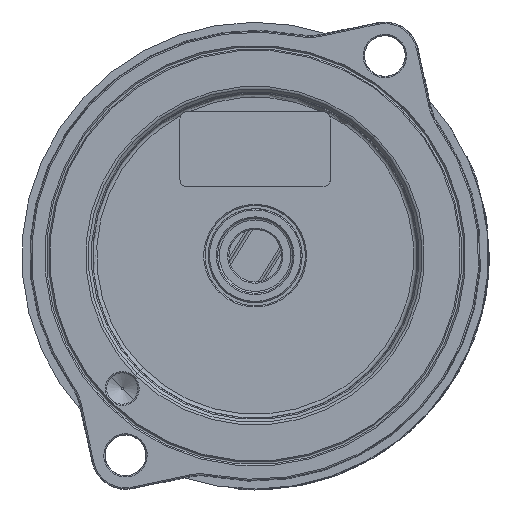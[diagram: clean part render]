
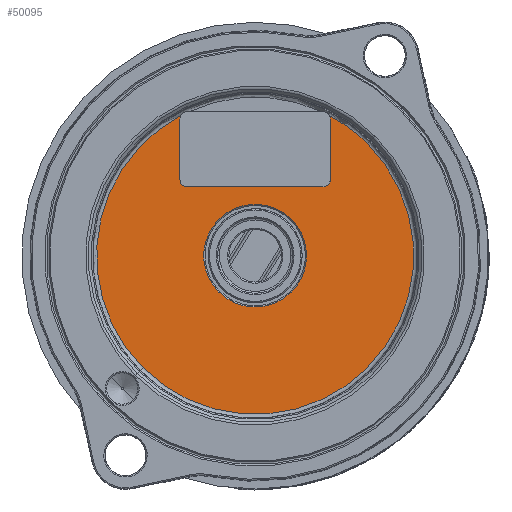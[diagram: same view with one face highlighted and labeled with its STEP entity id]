
A CAD part, front view. The second image highlights one B-rep face of the part: STEP entity #50095.
In plain terms, the highlighted planar face has unit normal (0, -1, 0).
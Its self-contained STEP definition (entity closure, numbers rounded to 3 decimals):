
#181=DIRECTION('',(0.,0.,1.));
#182=VECTOR('',#181,4.8);
#183=CARTESIAN_POINT('',(-6.,-3.25,6.1));
#184=LINE('',#183,#182);
#185=CARTESIAN_POINT('',(-6.,-3.25,6.1));
#186=CARTESIAN_POINT('',(-6.,-3.25,6.075));
#187=CARTESIAN_POINT('',(-5.997,-3.25,6.028));
#188=CARTESIAN_POINT('',(-5.982,-3.25,5.943));
#189=CARTESIAN_POINT('',(-5.95,-3.25,5.85));
#190=CARTESIAN_POINT('',(-5.895,-3.25,5.755));
#191=CARTESIAN_POINT('',(-5.826,-3.25,5.674));
#192=CARTESIAN_POINT('',(-5.745,-3.25,5.605));
#193=CARTESIAN_POINT('',(-5.65,-3.25,5.55));
#194=CARTESIAN_POINT('',(-5.557,-3.25,5.518));
#195=CARTESIAN_POINT('',(-5.472,-3.25,5.503));
#196=CARTESIAN_POINT('',(-5.425,-3.25,5.5));
#197=CARTESIAN_POINT('',(-5.4,-3.25,5.5));
#199=DIRECTION('',(-1.,0.,0.));
#200=VECTOR('',#199,10.8);
#201=CARTESIAN_POINT('',(5.4,-3.25,5.5));
#202=LINE('',#201,#200);
#203=CARTESIAN_POINT('',(5.4,-3.25,5.5));
#204=CARTESIAN_POINT('',(5.425,-3.25,5.5));
#205=CARTESIAN_POINT('',(5.472,-3.25,5.503));
#206=CARTESIAN_POINT('',(5.557,-3.25,5.518));
#207=CARTESIAN_POINT('',(5.65,-3.25,5.55));
#208=CARTESIAN_POINT('',(5.745,-3.25,5.605));
#209=CARTESIAN_POINT('',(5.826,-3.25,5.674));
#210=CARTESIAN_POINT('',(5.895,-3.25,5.755));
#211=CARTESIAN_POINT('',(5.95,-3.25,5.85));
#212=CARTESIAN_POINT('',(5.982,-3.25,5.943));
#213=CARTESIAN_POINT('',(5.997,-3.25,6.028));
#214=CARTESIAN_POINT('',(6.,-3.25,6.075));
#215=CARTESIAN_POINT('',(6.,-3.25,6.1));
#217=DIRECTION('',(0.,0.,-1.));
#218=VECTOR('',#217,4.8);
#219=CARTESIAN_POINT('',(6.,-3.25,10.9));
#220=LINE('',#219,#218);
#221=CARTESIAN_POINT('',(6.,-3.25,10.9));
#222=CARTESIAN_POINT('',(6.,-3.25,10.95));
#223=CARTESIAN_POINT('',(5.988,-3.25,11.046));
#224=CARTESIAN_POINT('',(5.953,-3.25,11.137));
#225=CARTESIAN_POINT('',(5.93,-3.25,11.181));
#227=CARTESIAN_POINT('',(0.,-3.25,
0.));
#228=DIRECTION('',(0.,-1.,0.));
#229=DIRECTION('',(0.707,0.,0.707));
#230=AXIS2_PLACEMENT_3D('',#227,#228,#229);
#232=CARTESIAN_POINT('',(0.,-3.25,
0.));
#233=DIRECTION('',(0.,-1.,0.));
#234=DIRECTION('',(-0.707,0.,-0.707));
#235=AXIS2_PLACEMENT_3D('',#232,#233,#234);
#237=CARTESIAN_POINT('',(0.,-3.25,
0.));
#238=DIRECTION('',(0.,-1.,0.));
#239=DIRECTION('',(-0.469,0.,0.883));
#240=AXIS2_PLACEMENT_3D('',#237,#238,#239);
#242=CARTESIAN_POINT('',(-5.93,-3.25,11.181));
#243=CARTESIAN_POINT('',(-5.953,-3.25,11.137));
#244=CARTESIAN_POINT('',(-5.988,-3.25,11.046));
#245=CARTESIAN_POINT('',(-6.,-3.25,10.95));
#246=CARTESIAN_POINT('',(-6.,-3.25,10.9));
#248=CARTESIAN_POINT('',(0.,-3.25,
0.));
#249=DIRECTION('',(0.,1.,0.));
#250=DIRECTION('',(-0.707,0.,-0.707));
#251=AXIS2_PLACEMENT_3D('',#248,#249,#250);
#253=CARTESIAN_POINT('',(0.,-3.25,
0.));
#254=DIRECTION('',(0.,1.,0.));
#255=DIRECTION('',(0.707,0.,0.707));
#256=AXIS2_PLACEMENT_3D('',#253,#254,#255);
#45174=CARTESIAN_POINT('',(-2.899,-3.25,
-2.899));
#45175=CARTESIAN_POINT('',(2.899,-3.25,
2.899));
#45176=VERTEX_POINT('',#45174);
#45177=VERTEX_POINT('',#45175);
#45378=CARTESIAN_POINT('',(-8.95,-3.25,
-8.949));
#45379=CARTESIAN_POINT('',(8.95,-3.25,
8.949));
#45380=VERTEX_POINT('',#45378);
#45381=VERTEX_POINT('',#45379);
#49298=CARTESIAN_POINT('',(-6.,-3.25,
6.1));
#49299=CARTESIAN_POINT('',(-6.,-3.25,
10.9));
#49300=VERTEX_POINT('',#49298);
#49301=VERTEX_POINT('',#49299);
#49306=CARTESIAN_POINT('',(6.,-3.25,
10.9));
#49307=CARTESIAN_POINT('',(6.,-3.25,
6.1));
#49308=VERTEX_POINT('',#49306);
#49309=VERTEX_POINT('',#49307);
#49310=CARTESIAN_POINT('',(5.4,-3.25,
5.5));
#49311=CARTESIAN_POINT('',(-5.4,-3.25,
5.5));
#49312=VERTEX_POINT('',#49310);
#49313=VERTEX_POINT('',#49311);
#49314=VERTEX_POINT('',#242);
#49315=VERTEX_POINT('',#225);
#50063=CARTESIAN_POINT('',(0.,-3.25,
0.));
#50064=DIRECTION('',(0.,-1.,0.));
#50065=DIRECTION('',(-0.707,0.,-0.707));
#50066=AXIS2_PLACEMENT_3D('',#50063,#50064,#50065);
#50067=PLANE('',#50066);
#50069=ORIENTED_EDGE('',*,*,#50068,.F.);
#50071=ORIENTED_EDGE('',*,*,#50070,.T.);
#50073=ORIENTED_EDGE('',*,*,#50072,.F.);
#50075=ORIENTED_EDGE('',*,*,#50074,.T.);
#50077=ORIENTED_EDGE('',*,*,#50076,.F.);
#50079=ORIENTED_EDGE('',*,*,#50078,.T.);
#50081=ORIENTED_EDGE('',*,*,#50080,.F.);
#50083=ORIENTED_EDGE('',*,*,#50082,.F.);
#50085=ORIENTED_EDGE('',*,*,#50084,.F.);
#50087=ORIENTED_EDGE('',*,*,#50086,.T.);
#50088=EDGE_LOOP('',(#50069,#50071,#50073,#50075,#50077,#50079,#50081,#50083,
#50085,#50087));
#50089=FACE_OUTER_BOUND('',#50088,.F.);
#50091=ORIENTED_EDGE('',*,*,#50090,.F.);
#50092=ORIENTED_EDGE('',*,*,#50046,.F.);
#50093=EDGE_LOOP('',(#50091,#50092));
#50094=FACE_BOUND('',#50093,.F.);
#198=B_SPLINE_CURVE_WITH_KNOTS('',3,(#185,#186,#187,#188,#189,#190,#191,#192,
#193,#194,#195,#196,#197),.UNSPECIFIED.,.F.,.F.,(4,1,1,1,1,1,1,1,1,1,4),(0.,
0.063,0.125,0.25,0.375,0.5,0.625,0.75,0.875,0.938,1.),
.UNSPECIFIED.);
#216=B_SPLINE_CURVE_WITH_KNOTS('',3,(#203,#204,#205,#206,#207,#208,#209,#210,
#211,#212,#213,#214,#215),.UNSPECIFIED.,.F.,.F.,(4,1,1,1,1,1,1,1,1,1,4),(0.,
0.063,0.125,0.25,0.375,0.5,0.625,0.75,0.875,0.938,1.),
.UNSPECIFIED.);
#226=B_SPLINE_CURVE_WITH_KNOTS('',3,(#221,#222,#223,#224,#225),.UNSPECIFIED.,
.F.,.F.,(4,1,4),(0.,0.5,1.),.UNSPECIFIED.);
#231=CIRCLE('',#230,12.656);
#236=CIRCLE('',#235,12.656);
#241=CIRCLE('',#240,12.656);
#247=B_SPLINE_CURVE_WITH_KNOTS('',3,(#242,#243,#244,#245,#246),.UNSPECIFIED.,
.F.,.F.,(4,1,4),(0.,0.5,1.),.UNSPECIFIED.);
#252=CIRCLE('',#251,4.1);
#257=CIRCLE('',#256,4.1);
#50046=EDGE_CURVE('',#45177,#45176,#257,.T.);
#50068=EDGE_CURVE('',#49300,#49301,#184,.T.);
#50070=EDGE_CURVE('',#49300,#49313,#198,.T.);
#50072=EDGE_CURVE('',#49312,#49313,#202,.T.);
#50074=EDGE_CURVE('',#49312,#49309,#216,.T.);
#50076=EDGE_CURVE('',#49308,#49309,#220,.T.);
#50078=EDGE_CURVE('',#49308,#49315,#226,.T.);
#50080=EDGE_CURVE('',#45381,#49315,#231,.T.);
#50082=EDGE_CURVE('',#45380,#45381,#236,.T.);
#50084=EDGE_CURVE('',#49314,#45380,#241,.T.);
#50086=EDGE_CURVE('',#49314,#49301,#247,.T.);
#50090=EDGE_CURVE('',#45176,#45177,#252,.T.);
#50095=ADVANCED_FACE('',(#50089,#50094),#50067,.T.);
